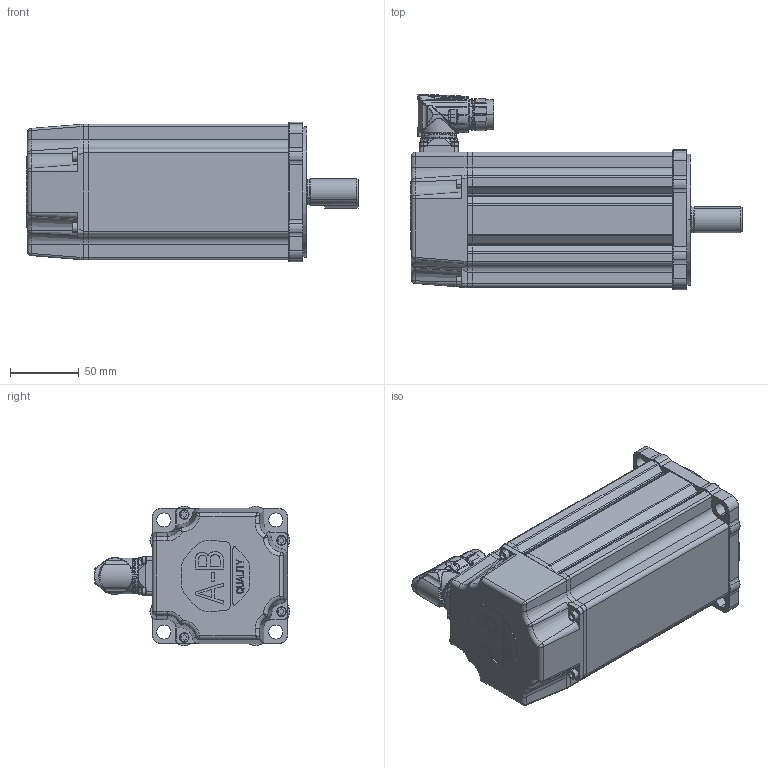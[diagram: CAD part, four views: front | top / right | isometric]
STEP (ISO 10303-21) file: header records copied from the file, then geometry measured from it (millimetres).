
FILE_DESCRIPTION (( 'STEP AP214' ), '1' );
FILE_NAME ('Rockwell Automation-$PARTNUMBER.STEP', '2014-02-18T10:21:50', ( 'Windows User' ), ( '' ), 'SwSTEP 2.0', 'SolidWorks 2014', '' );
FILE_SCHEMA (( 'AUTOMOTIVE_DESIGN' ));
Length unit declared in the file: inch
Products named in the file (9): Rockwell Automation-$PARTNUMBER; Rockwell Automation-$PARTNUMBER_Rockwell Automation-VPL-x1152x-xJx4xx_91290A115_ANY; Rockwell Automation-$PARTNUMBER_Rockwell Automation-VPL-x1152x-xJx4xx_M23_Connector; Rockwell Automation-$PARTNUMBER_Rockwell Automation-VPL-x1152x-xJx4xx_10000014326-M23_ASM; Rockwell Automation-$PARTNUMBER_Rockwell Automation-VPL-x1152x-xJx4xx_10000014326-1; Rockwell Automation-$PARTNUMBER_Rockwell Automation-VPL-x1152x-xJx4xx_10000014325-1; Rockwell Automation-$PARTNUMBER_Rockwell Automation-VPL-x1152x-xJx4xx_10000540833; Rockwell Automation-$PARTNUMBER_Rockwell Automation-VPL-x1152x-xJx4xx_VPL-115-Shaft_1152-SHAFT-KEYED-BRAKE; Rockwell Automation-$PARTNUMBER_Rockwell Automation-VPL-x1152x-xJx4xx_VPL-115-Body_1152-Brake
Assembly tree (11 placements, depth 4):
  Rockwell Automation-$PARTNUMBER
    Rockwell Automation-$PARTNUMBER_Rockwell Automation-VPL-x1152x-xJx4xx_VPL-115-Body_1152-Brake
    Rockwell Automation-$PARTNUMBER_Rockwell Automation-VPL-x1152x-xJx4xx_VPL-115-Shaft_1152-SHAFT-KEYED-BRAKE
    Rockwell Automation-$PARTNUMBER_Rockwell Automation-VPL-x1152x-xJx4xx_M23_Connector
      Rockwell Automation-$PARTNUMBER_Rockwell Automation-VPL-x1152x-xJx4xx_10000540833
      Rockwell Automation-$PARTNUMBER_Rockwell Automation-VPL-x1152x-xJx4xx_10000014325-1
      Rockwell Automation-$PARTNUMBER_Rockwell Automation-VPL-x1152x-xJx4xx_10000014326-M23_ASM
        Rockwell Automation-$PARTNUMBER_Rockwell Automation-VPL-x1152x-xJx4xx_10000014326-1
    Rockwell Automation-$PARTNUMBER_Rockwell Automation-VPL-x1152x-xJx4xx_91290A115_ANY  x4
Bounding box: 240.92 x 142 x 101.55 mm (x, y, z)
Volume: 712034.1 mm3; surface area: 226053.7 mm2
Topology: 11 solids, 17 shells, 2632 faces, 7304 edges, 4726 vertices
Faces by surface type: cylinder 827, plane 806, bspline 724, cone 255, torus 18, sphere 2
Entity records: 156077 total; most frequent: CARTESIAN_POINT 85583, ORIENTED_EDGE 14153, DIRECTION 8524, EDGE_CURVE 7083, VERTEX_POINT 4624, B_SPLINE_CURVE_WITH_KNOTS 3369, AXIS2_PLACEMENT_3D 3094, EDGE_LOOP 2693
